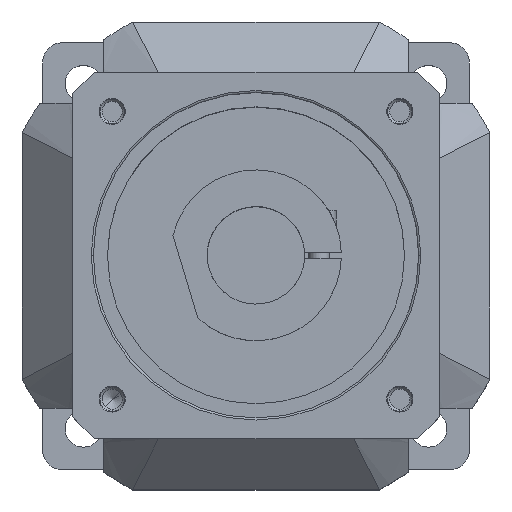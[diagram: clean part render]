
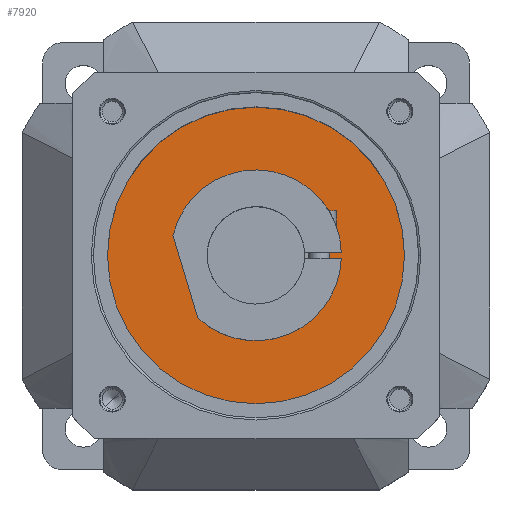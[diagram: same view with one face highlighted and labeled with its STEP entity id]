
A CAD part, top view. The second image highlights one B-rep face of the part: STEP entity #7920.
In plain terms, the highlighted planar face has unit normal (0, 0, 1) as drawn and (0, 1, 0) by its records, which use the part's own axes.
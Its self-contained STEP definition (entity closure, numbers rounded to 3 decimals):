
#6431=CARTESIAN_POINT('',(28.855,52.,-42.052));
#6467=CARTESIAN_POINT('',(42.052,52.,-28.855));
#6474=CARTESIAN_POINT('',(0.,52.,0.));
#6475=DIRECTION('',(0.,1.,0.));
#6476=DIRECTION('',(0.,0.,1.));
#6477=AXIS2_PLACEMENT_3D('',#6474,#6475,#6476);
#6479=CARTESIAN_POINT('',(0.,52.,0.));
#6480=DIRECTION('',(0.,1.,0.));
#6481=DIRECTION('',(0.,0.,-1.));
#6482=AXIS2_PLACEMENT_3D('',#6479,#6480,#6481);
#6484=DIRECTION('',(0.,0.,1.));
#6485=VECTOR('',#6484,6.697);
#6486=CARTESIAN_POINT('',(28.855,52.,35.355));
#6487=LINE('',#6486,#6485);
#6488=CARTESIAN_POINT('',(0.,52.,0.));
#6489=DIRECTION('',(0.,1.,0.));
#6490=DIRECTION('',(0.471,0.,0.882));
#6491=AXIS2_PLACEMENT_3D('',#6488,#6489,#6490);
#6493=DIRECTION('',(1.,0.,0.));
#6494=VECTOR('',#6493,48.);
#6495=CARTESIAN_POINT('',(-24.,52.,45.));
#6496=LINE('',#6495,#6494);
#6497=CARTESIAN_POINT('',(0.,52.,0.));
#6498=DIRECTION('',(0.,1.,0.));
#6499=DIRECTION('',(-0.566,0.,0.825));
#6500=AXIS2_PLACEMENT_3D('',#6497,#6498,#6499);
#6502=DIRECTION('',(0.,0.,-1.));
#6503=VECTOR('',#6502,6.697);
#6504=CARTESIAN_POINT('',(-28.855,52.,42.052));
#6505=LINE('',#6504,#6503);
#6506=CARTESIAN_POINT('',(-35.355,52.,35.355));
#6507=DIRECTION('',(0.,1.,0.));
#6508=DIRECTION('',(1.,0.,0.));
#6509=AXIS2_PLACEMENT_3D('',#6506,#6507,#6508);
#6511=DIRECTION('',(-1.,0.,0.));
#6512=VECTOR('',#6511,6.697);
#6513=CARTESIAN_POINT('',(-35.355,52.,28.855));
#6514=LINE('',#6513,#6512);
#6515=CARTESIAN_POINT('',(0.,52.,0.));
#6516=DIRECTION('',(0.,1.,0.));
#6517=DIRECTION('',(-0.882,0.,0.471));
#6518=AXIS2_PLACEMENT_3D('',#6515,#6516,#6517);
#6520=DIRECTION('',(0.,0.,1.));
#6521=VECTOR('',#6520,48.);
#6522=CARTESIAN_POINT('',(-45.,52.,-24.));
#6523=LINE('',#6522,#6521);
#6524=CARTESIAN_POINT('',(0.,52.,0.));
#6525=DIRECTION('',(0.,1.,0.));
#6526=DIRECTION('',(-0.825,0.,-0.566));
#6527=AXIS2_PLACEMENT_3D('',#6524,#6525,#6526);
#6529=DIRECTION('',(1.,0.,0.));
#6530=VECTOR('',#6529,6.697);
#6531=CARTESIAN_POINT('',(-42.052,52.,-28.855));
#6532=LINE('',#6531,#6530);
#6533=CARTESIAN_POINT('',(-35.355,52.,-35.355));
#6534=DIRECTION('',(0.,1.,0.));
#6535=DIRECTION('',(0.,0.,1.));
#6536=AXIS2_PLACEMENT_3D('',#6533,#6534,#6535);
#6538=DIRECTION('',(0.,0.,-1.));
#6539=VECTOR('',#6538,6.697);
#6540=CARTESIAN_POINT('',(-28.855,52.,-35.355));
#6541=LINE('',#6540,#6539);
#6542=CARTESIAN_POINT('',(0.,52.,0.));
#6543=DIRECTION('',(0.,1.,0.));
#6544=DIRECTION('',(-0.471,0.,-0.882));
#6545=AXIS2_PLACEMENT_3D('',#6542,#6543,#6544);
#6547=DIRECTION('',(-1.,0.,0.));
#6548=VECTOR('',#6547,48.);
#6549=CARTESIAN_POINT('',(24.,52.,-45.));
#6550=LINE('',#6549,#6548);
#6551=CARTESIAN_POINT('',(0.,52.,0.));
#6552=DIRECTION('',(0.,1.,0.));
#6553=DIRECTION('',(0.566,0.,-0.825));
#6554=AXIS2_PLACEMENT_3D('',#6551,#6552,#6553);
#6556=DIRECTION('',(0.,0.,1.));
#6557=VECTOR('',#6556,6.697);
#6558=CARTESIAN_POINT('',(28.855,52.,-42.052));
#6559=LINE('',#6558,#6557);
#6560=CARTESIAN_POINT('',(35.355,52.,-35.355));
#6561=DIRECTION('',(0.,1.,0.));
#6562=DIRECTION('',(-1.,0.,0.));
#6563=AXIS2_PLACEMENT_3D('',#6560,#6561,#6562);
#6565=DIRECTION('',(1.,0.,0.));
#6566=VECTOR('',#6565,6.697);
#6567=CARTESIAN_POINT('',(35.355,52.,-28.855));
#6568=LINE('',#6567,#6566);
#6569=CARTESIAN_POINT('',(0.,52.,0.));
#6570=DIRECTION('',(0.,1.,0.));
#6571=DIRECTION('',(0.882,0.,-0.471));
#6572=AXIS2_PLACEMENT_3D('',#6569,#6570,#6571);
#6574=DIRECTION('',(0.,0.,-1.));
#6575=VECTOR('',#6574,48.);
#6576=CARTESIAN_POINT('',(45.,52.,24.));
#6577=LINE('',#6576,#6575);
#6578=CARTESIAN_POINT('',(0.,52.,0.));
#6579=DIRECTION('',(0.,1.,0.));
#6580=DIRECTION('',(0.825,0.,0.566));
#6581=AXIS2_PLACEMENT_3D('',#6578,#6579,#6580);
#6583=DIRECTION('',(-1.,0.,0.));
#6584=VECTOR('',#6583,6.697);
#6585=CARTESIAN_POINT('',(42.052,52.,28.855));
#6586=LINE('',#6585,#6584);
#6587=CARTESIAN_POINT('',(35.355,52.,35.355));
#6588=DIRECTION('',(0.,1.,0.));
#6589=DIRECTION('',(0.,0.,-1.));
#6590=AXIS2_PLACEMENT_3D('',#6587,#6588,#6589);
#6808=CARTESIAN_POINT('',(42.052,52.,28.855));
#6844=CARTESIAN_POINT('',(28.855,52.,42.052));
#6882=CARTESIAN_POINT('',(-28.855,52.,42.052));
#6918=CARTESIAN_POINT('',(-42.052,52.,28.855));
#6948=CARTESIAN_POINT('',(-42.052,52.,-28.855));
#6984=CARTESIAN_POINT('',(-28.855,52.,-42.052));
#7073=CARTESIAN_POINT('',(-45.,52.,-24.));
#7074=CARTESIAN_POINT('',(-45.,52.,24.));
#7075=VERTEX_POINT('',#7073);
#7076=VERTEX_POINT('',#7074);
#7077=CARTESIAN_POINT('',(-24.,52.,45.));
#7078=CARTESIAN_POINT('',(24.,52.,45.));
#7079=VERTEX_POINT('',#7077);
#7080=VERTEX_POINT('',#7078);
#7081=CARTESIAN_POINT('',(45.,52.,24.));
#7082=CARTESIAN_POINT('',(45.,52.,-24.));
#7083=VERTEX_POINT('',#7081);
#7084=VERTEX_POINT('',#7082);
#7085=CARTESIAN_POINT('',(24.,52.,-45.));
#7086=CARTESIAN_POINT('',(-24.,52.,-45.));
#7087=VERTEX_POINT('',#7085);
#7088=VERTEX_POINT('',#7086);
#7183=CARTESIAN_POINT('',(0.,52.,14.));
#7184=CARTESIAN_POINT('',(0.,52.,-14.));
#7185=VERTEX_POINT('',#7183);
#7186=VERTEX_POINT('',#7184);
#7218=VERTEX_POINT('',#6467);
#7219=VERTEX_POINT('',#6431);
#7221=CARTESIAN_POINT('',(35.355,52.,-28.855));
#7222=VERTEX_POINT('',#7221);
#7223=CARTESIAN_POINT('',(28.855,52.,-35.355));
#7224=VERTEX_POINT('',#7223);
#7228=VERTEX_POINT('',#6984);
#7229=VERTEX_POINT('',#6948);
#7231=CARTESIAN_POINT('',(-28.855,52.,-35.355));
#7232=VERTEX_POINT('',#7231);
#7233=CARTESIAN_POINT('',(-35.355,52.,-28.855));
#7234=VERTEX_POINT('',#7233);
#7238=VERTEX_POINT('',#6918);
#7239=VERTEX_POINT('',#6882);
#7241=CARTESIAN_POINT('',(-35.355,52.,28.855));
#7242=VERTEX_POINT('',#7241);
#7243=CARTESIAN_POINT('',(-28.855,52.,35.355));
#7244=VERTEX_POINT('',#7243);
#7248=VERTEX_POINT('',#6844);
#7249=VERTEX_POINT('',#6808);
#7251=CARTESIAN_POINT('',(28.855,52.,35.355));
#7252=VERTEX_POINT('',#7251);
#7253=CARTESIAN_POINT('',(35.355,52.,28.855));
#7254=VERTEX_POINT('',#7253);
#7863=CARTESIAN_POINT('',(0.,52.,0.));
#7864=DIRECTION('',(0.,-1.,0.));
#7865=DIRECTION('',(-1.,0.,0.));
#7866=AXIS2_PLACEMENT_3D('',#7863,#7864,#7865);
#7867=PLANE('',#7866);
#7869=ORIENTED_EDGE('',*,*,#7868,.T.);
#7871=ORIENTED_EDGE('',*,*,#7870,.F.);
#7873=ORIENTED_EDGE('',*,*,#7872,.F.);
#7875=ORIENTED_EDGE('',*,*,#7874,.F.);
#7877=ORIENTED_EDGE('',*,*,#7876,.T.);
#7879=ORIENTED_EDGE('',*,*,#7878,.T.);
#7881=ORIENTED_EDGE('',*,*,#7880,.T.);
#7883=ORIENTED_EDGE('',*,*,#7882,.F.);
#7885=ORIENTED_EDGE('',*,*,#7884,.F.);
#7887=ORIENTED_EDGE('',*,*,#7886,.F.);
#7889=ORIENTED_EDGE('',*,*,#7888,.T.);
#7891=ORIENTED_EDGE('',*,*,#7890,.T.);
#7893=ORIENTED_EDGE('',*,*,#7892,.T.);
#7895=ORIENTED_EDGE('',*,*,#7894,.F.);
#7897=ORIENTED_EDGE('',*,*,#7896,.F.);
#7898=ORIENTED_EDGE('',*,*,#7811,.F.);
#7900=ORIENTED_EDGE('',*,*,#7899,.T.);
#7901=ORIENTED_EDGE('',*,*,#7843,.T.);
#7902=ORIENTED_EDGE('',*,*,#7857,.T.);
#7903=ORIENTED_EDGE('',*,*,#7828,.F.);
#7905=ORIENTED_EDGE('',*,*,#7904,.F.);
#7907=ORIENTED_EDGE('',*,*,#7906,.F.);
#7909=ORIENTED_EDGE('',*,*,#7908,.T.);
#7911=ORIENTED_EDGE('',*,*,#7910,.T.);
#7912=EDGE_LOOP('',(#7869,#7871,#7873,#7875,#7877,#7879,#7881,#7883,#7885,#7887,
#7889,#7891,#7893,#7895,#7897,#7898,#7900,#7901,#7902,#7903,#7905,#7907,#7909,
#7911));
#7913=FACE_OUTER_BOUND('',#7912,.F.);
#7915=ORIENTED_EDGE('',*,*,#7914,.T.);
#7917=ORIENTED_EDGE('',*,*,#7916,.T.);
#7918=EDGE_LOOP('',(#7915,#7917));
#7919=FACE_BOUND('',#7918,.F.);
#7920=ADVANCED_FACE('',(#7913,#7919),#7867,.F.);
#6478=CIRCLE('',#6477,14.);
#6483=CIRCLE('',#6482,14.);
#6492=CIRCLE('',#6491,51.);
#6501=CIRCLE('',#6500,51.);
#6510=CIRCLE('',#6509,6.5);
#6519=CIRCLE('',#6518,51.);
#6528=CIRCLE('',#6527,51.);
#6537=CIRCLE('',#6536,6.5);
#6546=CIRCLE('',#6545,51.);
#6555=CIRCLE('',#6554,51.);
#6564=CIRCLE('',#6563,6.5);
#6573=CIRCLE('',#6572,51.);
#6582=CIRCLE('',#6581,51.);
#6591=CIRCLE('',#6590,6.5);
#7811=EDGE_CURVE('',#7219,#7087,#6555,.T.);
#7828=EDGE_CURVE('',#7084,#7218,#6573,.T.);
#7843=EDGE_CURVE('',#7224,#7222,#6564,.T.);
#7857=EDGE_CURVE('',#7222,#7218,#6568,.T.);
#7868=EDGE_CURVE('',#7252,#7248,#6487,.T.);
#7870=EDGE_CURVE('',#7080,#7248,#6492,.T.);
#7872=EDGE_CURVE('',#7079,#7080,#6496,.T.);
#7874=EDGE_CURVE('',#7239,#7079,#6501,.T.);
#7876=EDGE_CURVE('',#7239,#7244,#6505,.T.);
#7878=EDGE_CURVE('',#7244,#7242,#6510,.T.);
#7880=EDGE_CURVE('',#7242,#7238,#6514,.T.);
#7882=EDGE_CURVE('',#7076,#7238,#6519,.T.);
#7884=EDGE_CURVE('',#7075,#7076,#6523,.T.);
#7886=EDGE_CURVE('',#7229,#7075,#6528,.T.);
#7888=EDGE_CURVE('',#7229,#7234,#6532,.T.);
#7890=EDGE_CURVE('',#7234,#7232,#6537,.T.);
#7892=EDGE_CURVE('',#7232,#7228,#6541,.T.);
#7894=EDGE_CURVE('',#7088,#7228,#6546,.T.);
#7896=EDGE_CURVE('',#7087,#7088,#6550,.T.);
#7899=EDGE_CURVE('',#7219,#7224,#6559,.T.);
#7904=EDGE_CURVE('',#7083,#7084,#6577,.T.);
#7906=EDGE_CURVE('',#7249,#7083,#6582,.T.);
#7908=EDGE_CURVE('',#7249,#7254,#6586,.T.);
#7910=EDGE_CURVE('',#7254,#7252,#6591,.T.);
#7914=EDGE_CURVE('',#7185,#7186,#6478,.T.);
#7916=EDGE_CURVE('',#7186,#7185,#6483,.T.);
